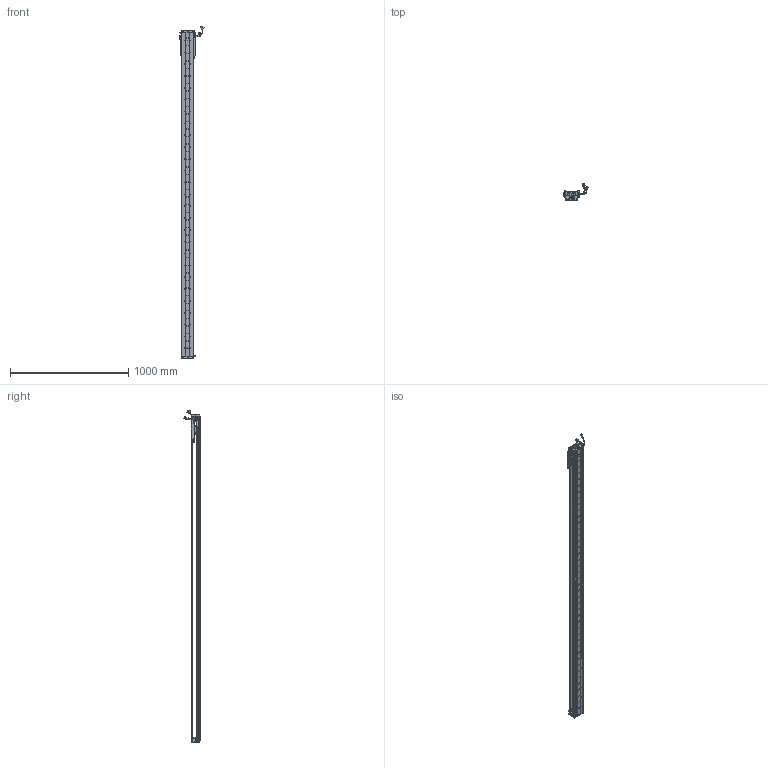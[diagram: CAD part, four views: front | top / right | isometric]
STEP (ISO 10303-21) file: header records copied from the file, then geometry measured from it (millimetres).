
FILE_DESCRIPTION (( 'STEP AP203' ), '1' );
FILE_NAME ('Z2-RY100D-1-L500-B-K.SLDASM_2500.step', '2021-05-17T02:37:58', ( '盈信电脑' ), ( '东莞市道滘镇水果街19号' ), 'SwSTEP 2.0', 'SolidWorks 2016', '' );
FILE_SCHEMA (( 'CONFIG_CONTROL_DESIGN' ));
Length unit declared in the file: millimetre
Products named in the file (36): 100-Z-臏賑輸盄裔(21遴); HARNESS-Part-2; SEAL; HARNESS; SCREW-M1.6-1; SCALE-Part-2; SCREW-M1.6-2; LABEL-Part-1; 140蚥薯蝶輸; 080黍杅芛假蚾釱21遴; SCALE; Z-RY100D詩湍狟揤裔; Z-RY100D詩湍奻揤裔; SCREW-M1.6-3; Z2-RY100铝滑块（21款）; COVER; SCALE-Part-1; COVER-Part-1; HARNESS-Part-1; 榋妏寠巭燃_暯_M2_2; 覜茼ん672; LABEL; SCREW-M1.6; Z2-RY100D-1-L500-B-K.SLDASM_2500; Z2-RY100D-500-倰第菁釱_2500; SHIELDPLATE; PBU_SHEET; 140雄赽晤鎢ん堤盄; HOLDER0; Z-100詩湍傷裔啣; SEAL-Part-1; SCREW-M1.7-1; Z2-RY100-L500詩湍90mm遵_2500; Z-RY100D覜茼んえ; PSLH080_PSLF2; SCREW-M1.7
Assembly tree (43 placements, depth 4):
  Z2-RY100D-1-L500-B-K.SLDASM_2500
    Z2-RY100D-500-倰第菁釱_2500
    Z2-RY100铝滑块（21款）
    PSLH080_PSLF2
      SCALE
        SCALE-Part-1
        SCALE-Part-2
      HARNESS
        HARNESS-Part-1
        HARNESS-Part-2
      LABEL
        LABEL-Part-1
      COVER
        COVER-Part-1
      SEAL
        SEAL-Part-1
      榋妏寠巭燃_暯_M2_2
      SHIELDPLATE
      SCREW-M1.7
      SCREW-M1.7-1
      PBU_SHEET
      SCREW-M1.6
      SCREW-M1.6-1
      SCREW-M1.6-2
      SCREW-M1.6-3
      HOLDER0
    080黍杅芛假蚾釱21遴
    Z-100詩湍傷裔啣  x2
    140蚥薯蝶輸  x2
    覜茼ん672  x3
    Z-RY100D覜茼んえ  x3
    100-Z-臏賑輸盄裔(21遴)
    140雄赽晤鎢ん堤盄
    Z2-RY100-L500詩湍90mm遵_2500
    Z-RY100D詩湍狟揤裔  x2
    Z-RY100D詩湍奻揤裔  x2
Bounding box: 205.79 x 136.11 x 2805.43 mm (x, y, z)
Volume: 5010776 mm3; surface area: 1990926.1 mm2
Topology: 38 solids, 38 shells, 3012 faces, 8247 edges, 5272 vertices
Faces by surface type: cylinder 1486, plane 1186, cone 218, torus 69, bspline 53
Entity records: 87555 total; most frequent: CARTESIAN_POINT 18364, DIRECTION 14111, ORIENTED_EDGE 13390, EDGE_CURVE 6695, AXIS2_PLACEMENT_3D 5307, VERTEX_POINT 4340, LINE 3497, VECTOR 3497
